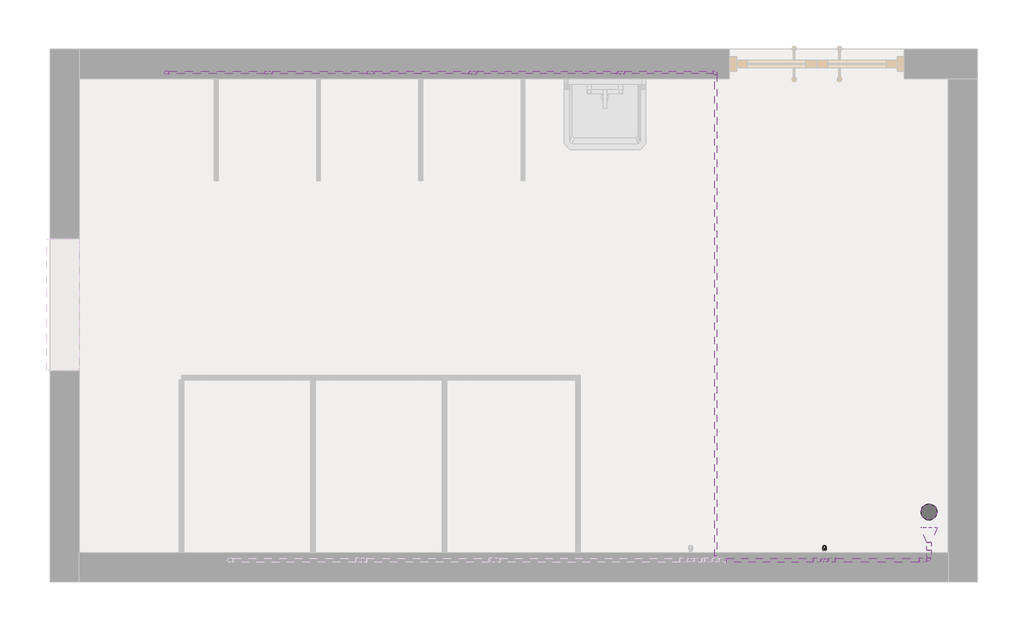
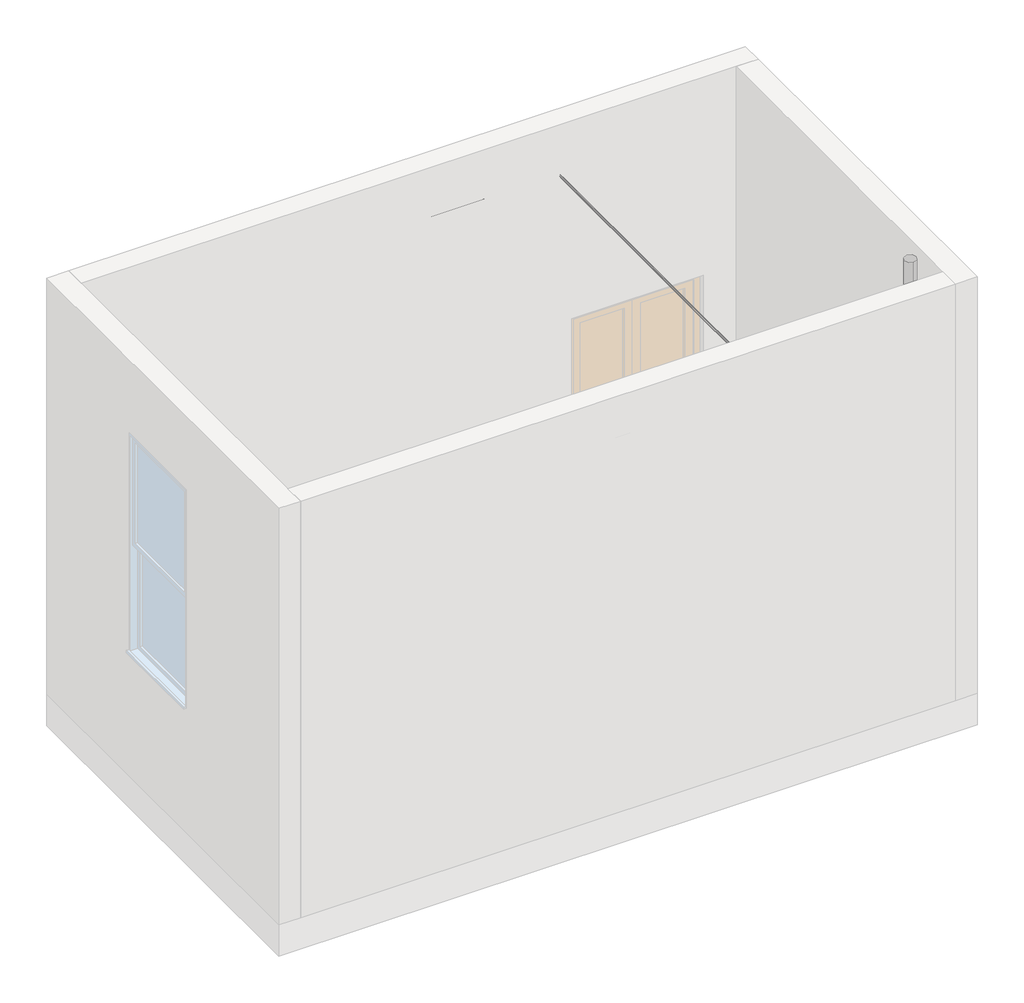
# One storey, part 2 of 2: 22 pipe segments, 21 pipe fittings.
"""IFC4 building model written with IfcOpenShell, lengths in millimetres."""

from ifc_helpers import new_model, si_unit, point, frame, frame_2d, origin, origin_with_axes, place, context, project, spatial, circle_curve, trimmed, segment, composite_curve, outline, extrude, transform, mapped, element, save
from components import pipe_fitting_1874c2ef, pipe_fitting_77111f3f, pipe_fitting_a8da37af, pipe_fitting_cd75d731, pipe_fitting_eb17f4a4, pipe_fitting_a8c3ae59

model = new_model("IFC4")

# Units and contexts
model_context = context("Model", 3, world=origin())
ifc_project = project(units=[si_unit("LENGTHUNIT", "METRE", prefix="MILLI")], contexts=[model_context])

# Site, building, storey
site = spatial("IfcSite", under=ifc_project)
building = spatial("IfcBuilding", under=site)
storey = spatial("IfcBuildingStorey", under=building, Name="标高 1", Elevation=0.0)

# Pipe fittings
placement = place(None, origin())
pipe_fitting_shape = pipe_fitting_1874c2ef(model_context)
element("IfcPipeFitting", 1, ObjectType="T 形三通 - 常规 : 标准", at=placement, inside=storey, context=model_context, shape_type="MappedRepresentation", body=[
    mapped(pipe_fitting_shape, transform((-14402.099061, -5297.8393827, 3500.0), x_axis=(1.0, 0.0, 0.0), y_axis=(0.0, 0.0, 1.0), z_axis=(0.0, -1.0, 0.0))),
])
element("IfcPipeFitting", 2, ObjectType="T 形三通 - 常规 : 标准", at=placement, inside=storey, context=model_context, shape_type="MappedRepresentation", body=[
    mapped(pipe_fitting_shape, transform((-13702.099061, -5297.8393827, 3500.0), x_axis=(1.0, 0.0, 0.0), y_axis=(0.0, 0.0, 1.0), z_axis=(0.0, -1.0, 0.0))),
])
element("IfcPipeFitting", 3, ObjectType="T 形三通 - 常规 : 标准", at=placement, inside=storey, context=model_context, shape_type="MappedRepresentation", body=[
    mapped(pipe_fitting_shape, transform((-13002.099061, -5297.8393827, 3500.0), x_axis=(1.0, 0.0, 0.0), y_axis=(0.0, 0.0, 1.0), z_axis=(0.0, -1.0, 0.0))),
])
element("IfcPipeFitting", 4, ObjectType="T 形三通 - 常规 : 标准", at=placement, inside=storey, context=model_context, shape_type="MappedRepresentation", body=[
    mapped(pipe_fitting_shape, transform((-11989.149061, -5297.8393827, 3500.0), x_axis=(1.0, 0.0, 0.0), y_axis=(0.0, 0.0, 1.0), z_axis=(0.0, -1.0, 0.0))),
])
element("IfcPipeFitting", 5, ObjectType="T 形三通 - 常规 : 标准", at=placement, inside=storey, context=model_context, shape_type="MappedRepresentation", body=[
    mapped(pipe_fitting_shape, transform((-10595.399061, -8639.5483467, 3500.0), x_axis=(-1.0, 0.0, 0.0), y_axis=(0.0, 0.0, 1.0), z_axis=(0.0, 1.0, 0.0))),
])
pipe_fitting_2_shape = pipe_fitting_77111f3f(model_context)
element("IfcPipeFitting", 6, ObjectType="弯头 - 常规 : 标准", at=placement, inside=storey, context=model_context, shape_type="MappedRepresentation", body=[
    mapped(pipe_fitting_2_shape, transform((-15102.099061, -5297.8393827, 1178.0), x_axis=(0.0, 1.0, 0.0), y_axis=(0.0, 0.0, 1.0), z_axis=(1.0, 0.0, 0.0))),
])
element("IfcPipeFitting", 7, ObjectType="弯头 - 常规 : 标准", at=placement, inside=storey, context=model_context, shape_type="MappedRepresentation", body=[
    mapped(pipe_fitting_2_shape, transform((-15102.099061, -5297.8393827, 3500.0), x_axis=(0.0, 0.0, 1.0), y_axis=(1.0, 0.0, 0.0), z_axis=(0.0, 1.0, 0.0))),
])
element("IfcPipeFitting", 8, ObjectType="弯头 - 常规 : 标准", at=placement, inside=storey, context=model_context, shape_type="MappedRepresentation", body=[
    mapped(pipe_fitting_2_shape, transform((-11339.149053, -5297.8393827, 3500.0), x_axis=(0.0, 1.0, 0.0), y_axis=(-1.0, 0.0, 0.0), z_axis=(0.0, 0.0, 1.0))),
])
element("IfcPipeFitting", 9, ObjectType="弯头 - 常规 : 标准", at=placement, inside=storey, context=model_context, shape_type="MappedRepresentation", body=[
    mapped(pipe_fitting_2_shape, transform((-14402.099061, -5297.8393827, 1178.0), x_axis=(0.0, 1.0, 0.0), y_axis=(0.0, 0.0, 1.0), z_axis=(1.0, 0.0, 0.0))),
])
element("IfcPipeFitting", 10, ObjectType="弯头 - 常规 : 标准", at=placement, inside=storey, context=model_context, shape_type="MappedRepresentation", body=[
    mapped(pipe_fitting_2_shape, transform((-13702.099061, -5297.8393827, 1178.0), x_axis=(0.0, 1.0, 0.0), y_axis=(0.0, 0.0, 1.0), z_axis=(1.0, 0.0, 0.0))),
])
element("IfcPipeFitting", 11, ObjectType="弯头 - 常规 : 标准", at=placement, inside=storey, context=model_context, shape_type="MappedRepresentation", body=[
    mapped(pipe_fitting_2_shape, transform((-13002.099061, -5297.8393827, 1178.0), x_axis=(0.0, 1.0, 0.0), y_axis=(0.0, 0.0, 1.0), z_axis=(1.0, 0.0, 0.0))),
])
element("IfcPipeFitting", 12, ObjectType="弯头 - 常规 : 标准", at=placement, inside=storey, context=model_context, shape_type="MappedRepresentation", body=[
    mapped(pipe_fitting_2_shape, transform((-11989.149061, -5297.8393827, 1025.0), x_axis=(0.0, 1.0, 0.0), y_axis=(0.0, 0.0, 1.0), z_axis=(1.0, 0.0, 0.0))),
])
element("IfcPipeFitting", 13, ObjectType="弯头 - 常规 : 标准", at=placement, inside=storey, context=model_context, shape_type="MappedRepresentation", body=[
    mapped(pipe_fitting_2_shape, transform((-10595.399061, -8639.5483467, 575.95), x_axis=(0.0, 0.0, -1.0), y_axis=(0.0, 1.0, 0.0), z_axis=(1.0, 0.0, 0.0))),
])
element("IfcPipeFitting", 14, ObjectType="弯头 - 常规 : 标准", at=placement, inside=storey, context=model_context, shape_type="MappedRepresentation", body=[
    mapped(pipe_fitting_2_shape, transform((-10595.399061, -8551.0483569, 575.95), x_axis=(0.0, 0.0, -1.0), y_axis=(0.0, -1.0, 0.0), z_axis=(-1.0, 0.0, 0.0))),
])
element("IfcPipeFitting", 15, ObjectType="弯头 - 常规 : 标准", at=placement, inside=storey, context=model_context, shape_type="MappedRepresentation", body=[
    mapped(pipe_fitting_2_shape, transform((-9879.149053, -8639.5483467, 3500.0), x_axis=(1.0, 0.0, 0.0), y_axis=(0.0, 1.0, 0.0), z_axis=(0.0, 0.0, 1.0))),
])
pipe_fitting_3_shape = pipe_fitting_a8da37af(model_context)
element("IfcPipeFitting", 16, ObjectType="T 形三通 - 常规 : 标准", at=placement, inside=storey, context=model_context, shape_type="MappedRepresentation", body=[
    mapped(pipe_fitting_3_shape, transform((-9879.149053, -8308.9982277, 3500.0), x_axis=(0.0, 0.0, 1.0), y_axis=(0.0, 1.0, 0.0), z_axis=(-1.0, 0.0, 0.0))),
])
pipe_fitting_4_shape = pipe_fitting_cd75d731(model_context)
element("IfcPipeFitting", 17, ObjectType="过渡件 - 常规 : 标准", at=placement, inside=storey, context=model_context, shape_type="MappedRepresentation", body=[
    mapped(pipe_fitting_4_shape, transform((-10570.399061, -8639.5483467, 3500.0), x_axis=(1.0, 0.0, 0.0), y_axis=(0.0, 1.0, 0.0), z_axis=(0.0, 0.0, 1.0))),
])
element("IfcPipeFitting", 18, ObjectType="过渡件 - 常规 : 标准", at=placement, inside=storey, context=model_context, shape_type="MappedRepresentation", body=[
    mapped(pipe_fitting_4_shape, transform((-9895.0580374, -8639.5483467, 3500.0), x_axis=(-1.0, 0.0, 0.0), y_axis=(0.0, -1.0, 0.0), z_axis=(0.0, 0.0, 1.0))),
])
element("IfcPipeFitting", 19, ObjectType="过渡件 - 常规 : 标准", at=placement, inside=storey, context=model_context, shape_type="MappedRepresentation", body=[
    mapped(pipe_fitting_4_shape, transform((-9879.149053, -8623.6393623, 3500.0), x_axis=(0.0, 1.0, 0.0), y_axis=(-1.0, 0.0, 0.0), z_axis=(0.0, 0.0, 1.0))),
])
pipe_fitting_5_shape = pipe_fitting_eb17f4a4(model_context)
element("IfcPipeFitting", 20, ObjectType="过渡件 - 常规 : 标准", at=placement, inside=storey, context=model_context, shape_type="MappedRepresentation", body=[
    mapped(pipe_fitting_5_shape, transform((-10620.399061, -8639.5483467, 3500.0), x_axis=(-1.0, 0.0, 0.0), y_axis=(0.0, -1.0, 0.0), z_axis=(0.0, 0.0, 1.0))),
])
pipe_fitting_6_shape = pipe_fitting_a8c3ae59(model_context)
element("IfcPipeFitting", 21, ObjectType="过渡件 - 常规 : 标准", at=placement, inside=storey, context=model_context, shape_type="MappedRepresentation", body=[
    mapped(pipe_fitting_6_shape, transform((-9879.149053, -8413.9982277, 3500.0), x_axis=(0.0, -1.0, 0.0), y_axis=(1.0, 0.0, 0.0), z_axis=(0.0, 0.0, 1.0))),
])

# Pipe segments
element("IfcPipeSegment", 22, ObjectType="标准", at=placement, inside=storey, context=model_context, shape_type="SweptSolid", body=[
    extrude(outline(composite_curve([segment(trimmed(circle_curve(frame_2d((1178.0, -15102.099061)), 7.5), [point((1178.0, -15094.599061))], [point((1185.5, -15102.099061))], False, "CARTESIAN"), True, "CONTINUOUS"), segment(trimmed(circle_curve(frame_2d((1178.0, -15102.099061)), 7.5), [point((1185.5, -15102.099061))], [point((1178.0, -15109.599061))], False, "CARTESIAN"), True, "CONTINUOUS"), segment(trimmed(circle_curve(frame_2d((1178.0, -15102.099061)), 7.5), [point((1178.0, -15109.599061))], [point((1170.5, -15102.099061))], False, "CARTESIAN"), True, "CONTINUOUS"), segment(trimmed(circle_curve(frame_2d((1178.0, -15102.099061)), 7.5), [point((1170.5, -15102.099061))], [point((1178.0, -15094.599061))], False, "CARTESIAN"), True, "CONTINUOUS")], self_intersect=False)), frame((0.0, -5339.1483569, 0.0), z_axis=(0.0, 1.0, 0.0), x_axis=(0.0, 0.0, 1.0)), (0.0, 0.0, 1.0), 25.3999898),
])
element("IfcPipeSegment", 23, ObjectType="标准", at=placement, inside=storey, context=model_context, shape_type="SweptSolid", body=[
    extrude(outline(composite_curve([segment(trimmed(circle_curve(frame_2d((-15102.099061, -5297.8393827)), 7.5), [point((-15109.599061, -5297.8393827))], [point((-15102.099061, -5290.3393827))], False, "CARTESIAN"), True, "CONTINUOUS"), segment(trimmed(circle_curve(frame_2d((-15102.099061, -5297.8393827)), 7.5), [point((-15102.099061, -5290.3393827))], [point((-15094.599061, -5297.8393827))], False, "CARTESIAN"), True, "CONTINUOUS"), segment(trimmed(circle_curve(frame_2d((-15102.099061, -5297.8393827)), 7.5), [point((-15094.599061, -5297.8393827))], [point((-15102.099061, -5305.3393827))], False, "CARTESIAN"), True, "CONTINUOUS"), segment(trimmed(circle_curve(frame_2d((-15102.099061, -5297.8393827)), 7.5), [point((-15102.099061, -5305.3393827))], [point((-15109.599061, -5297.8393827))], False, "CARTESIAN"), True, "CONTINUOUS")], self_intersect=False)), frame((0.0, 0.0, 1193.9089844), z_axis=(0.0, 0.0, 1.0), x_axis=(1.0, 0.0, 0.0)), (0.0, 0.0, 1.0), 2290.1820313),
])
element("IfcPipeSegment", 24, ObjectType="标准", at=placement, inside=storey, context=model_context, shape_type="SweptSolid", body=[
    extrude(outline(composite_curve([segment(trimmed(circle_curve(frame_2d((-5297.8393827, 3500.0)), 7.5), [point((-5305.3393827, 3500.0))], [point((-5297.8393827, 3507.5))], False, "CARTESIAN"), True, "CONTINUOUS"), segment(trimmed(circle_curve(frame_2d((-5297.8393827, 3500.0)), 7.5), [point((-5297.8393827, 3507.5))], [point((-5290.3393827, 3500.0))], False, "CARTESIAN"), True, "CONTINUOUS"), segment(trimmed(circle_curve(frame_2d((-5297.8393827, 3500.0)), 7.5), [point((-5290.3393827, 3500.0))], [point((-5297.8393827, 3492.5))], False, "CARTESIAN"), True, "CONTINUOUS"), segment(trimmed(circle_curve(frame_2d((-5297.8393827, 3500.0)), 7.5), [point((-5297.8393827, 3492.5))], [point((-5305.3393827, 3500.0))], False, "CARTESIAN"), True, "CONTINUOUS")], self_intersect=False)), frame((-11964.149061, 0.0, 0.0), z_axis=(1.0, 0.0, 0.0), x_axis=(0.0, 1.0, 0.0)), (0.0, 0.0, 1.0), 609.0910236),
])
element("IfcPipeSegment", 25, ObjectType="标准", at=placement, inside=storey, context=model_context, shape_type="SweptSolid", body=[
    extrude(outline(composite_curve([segment(trimmed(circle_curve(frame_2d((3500.0, -11339.149053)), 7.5), [point((3500.0, -11346.649053))], [point((3492.5, -11339.149053))], False, "CARTESIAN"), True, "CONTINUOUS"), segment(trimmed(circle_curve(frame_2d((3500.0, -11339.149053)), 7.5), [point((3492.5, -11339.149053))], [point((3500.0, -11331.649053))], False, "CARTESIAN"), True, "CONTINUOUS"), segment(trimmed(circle_curve(frame_2d((3500.0, -11339.149053)), 7.5), [point((3500.0, -11331.649053))], [point((3507.5, -11339.149053))], False, "CARTESIAN"), True, "CONTINUOUS"), segment(trimmed(circle_curve(frame_2d((3500.0, -11339.149053)), 7.5), [point((3507.5, -11339.149053))], [point((3500.0, -11346.649053))], False, "CARTESIAN"), True, "CONTINUOUS")], self_intersect=False)), frame((0.0, -8614.5483467, 0.0), z_axis=(0.0, 1.0, 0.0), x_axis=(0.0, 0.0, 1.0)), (0.0, 0.0, 1.0), 3300.7999797),
])
element("IfcPipeSegment", 26, ObjectType="标准", at=placement, inside=storey, context=model_context, shape_type="SweptSolid", body=[
    extrude(outline(composite_curve([segment(trimmed(circle_curve(frame_2d((1178.0, -14402.099061)), 7.5), [point((1178.0, -14394.599061))], [point((1185.5, -14402.099061))], False, "CARTESIAN"), True, "CONTINUOUS"), segment(trimmed(circle_curve(frame_2d((1178.0, -14402.099061)), 7.5), [point((1185.5, -14402.099061))], [point((1178.0, -14409.599061))], False, "CARTESIAN"), True, "CONTINUOUS"), segment(trimmed(circle_curve(frame_2d((1178.0, -14402.099061)), 7.5), [point((1178.0, -14409.599061))], [point((1170.5, -14402.099061))], False, "CARTESIAN"), True, "CONTINUOUS"), segment(trimmed(circle_curve(frame_2d((1178.0, -14402.099061)), 7.5), [point((1170.5, -14402.099061))], [point((1178.0, -14394.599061))], False, "CARTESIAN"), True, "CONTINUOUS")], self_intersect=False)), frame((0.0, -5339.1483569, 0.0), z_axis=(0.0, 1.0, 0.0), x_axis=(0.0, 0.0, 1.0)), (0.0, 0.0, 1.0), 25.3999898),
])
element("IfcPipeSegment", 27, ObjectType="标准", at=placement, inside=storey, context=model_context, shape_type="SweptSolid", body=[
    extrude(outline(composite_curve([segment(trimmed(circle_curve(frame_2d((-14402.099061, -5297.8393827)), 7.5), [point((-14394.599061, -5297.8393827))], [point((-14402.099061, -5305.3393827))], False, "CARTESIAN"), True, "CONTINUOUS"), segment(trimmed(circle_curve(frame_2d((-14402.099061, -5297.8393827)), 7.5), [point((-14402.099061, -5305.3393827))], [point((-14409.599061, -5297.8393827))], False, "CARTESIAN"), True, "CONTINUOUS"), segment(trimmed(circle_curve(frame_2d((-14402.099061, -5297.8393827)), 7.5), [point((-14409.599061, -5297.8393827))], [point((-14402.099061, -5290.3393827))], False, "CARTESIAN"), True, "CONTINUOUS"), segment(trimmed(circle_curve(frame_2d((-14402.099061, -5297.8393827)), 7.5), [point((-14402.099061, -5290.3393827))], [point((-14394.599061, -5297.8393827))], False, "CARTESIAN"), True, "CONTINUOUS")], self_intersect=False)), frame((0.0, 0.0, 1193.9089844), z_axis=(0.0, 0.0, 1.0), x_axis=(1.0, 0.0, 0.0)), (0.0, 0.0, 1.0), 2281.0910156),
])
element("IfcPipeSegment", 28, ObjectType="标准", at=placement, inside=storey, context=model_context, shape_type="SweptSolid", body=[
    extrude(outline(composite_curve([segment(trimmed(circle_curve(frame_2d((1178.0, -13702.099061)), 7.5), [point((1178.0, -13694.599061))], [point((1185.5, -13702.099061))], False, "CARTESIAN"), True, "CONTINUOUS"), segment(trimmed(circle_curve(frame_2d((1178.0, -13702.099061)), 7.5), [point((1185.5, -13702.099061))], [point((1178.0, -13709.599061))], False, "CARTESIAN"), True, "CONTINUOUS"), segment(trimmed(circle_curve(frame_2d((1178.0, -13702.099061)), 7.5), [point((1178.0, -13709.599061))], [point((1170.5, -13702.099061))], False, "CARTESIAN"), True, "CONTINUOUS"), segment(trimmed(circle_curve(frame_2d((1178.0, -13702.099061)), 7.5), [point((1170.5, -13702.099061))], [point((1178.0, -13694.599061))], False, "CARTESIAN"), True, "CONTINUOUS")], self_intersect=False)), frame((0.0, -5339.1483569, 0.0), z_axis=(0.0, 1.0, 0.0), x_axis=(0.0, 0.0, 1.0)), (0.0, 0.0, 1.0), 25.3999898),
])
element("IfcPipeSegment", 29, ObjectType="标准", at=placement, inside=storey, context=model_context, shape_type="SweptSolid", body=[
    extrude(outline(composite_curve([segment(trimmed(circle_curve(frame_2d((-13702.099061, -5297.8393827)), 7.5), [point((-13694.599061, -5297.8393827))], [point((-13702.099061, -5305.3393827))], False, "CARTESIAN"), True, "CONTINUOUS"), segment(trimmed(circle_curve(frame_2d((-13702.099061, -5297.8393827)), 7.5), [point((-13702.099061, -5305.3393827))], [point((-13709.599061, -5297.8393827))], False, "CARTESIAN"), True, "CONTINUOUS"), segment(trimmed(circle_curve(frame_2d((-13702.099061, -5297.8393827)), 7.5), [point((-13709.599061, -5297.8393827))], [point((-13702.099061, -5290.3393827))], False, "CARTESIAN"), True, "CONTINUOUS"), segment(trimmed(circle_curve(frame_2d((-13702.099061, -5297.8393827)), 7.5), [point((-13702.099061, -5290.3393827))], [point((-13694.599061, -5297.8393827))], False, "CARTESIAN"), True, "CONTINUOUS")], self_intersect=False)), frame((0.0, 0.0, 1193.9089844), z_axis=(0.0, 0.0, 1.0), x_axis=(1.0, 0.0, 0.0)), (0.0, 0.0, 1.0), 2281.0910156),
])
element("IfcPipeSegment", 30, ObjectType="标准", at=placement, inside=storey, context=model_context, shape_type="SweptSolid", body=[
    extrude(outline(composite_curve([segment(trimmed(circle_curve(frame_2d((1178.0, -13002.099061)), 7.5), [point((1178.0, -12994.599061))], [point((1185.5, -13002.099061))], False, "CARTESIAN"), True, "CONTINUOUS"), segment(trimmed(circle_curve(frame_2d((1178.0, -13002.099061)), 7.5), [point((1185.5, -13002.099061))], [point((1178.0, -13009.599061))], False, "CARTESIAN"), True, "CONTINUOUS"), segment(trimmed(circle_curve(frame_2d((1178.0, -13002.099061)), 7.5), [point((1178.0, -13009.599061))], [point((1170.5, -13002.099061))], False, "CARTESIAN"), True, "CONTINUOUS"), segment(trimmed(circle_curve(frame_2d((1178.0, -13002.099061)), 7.5), [point((1170.5, -13002.099061))], [point((1178.0, -12994.599061))], False, "CARTESIAN"), True, "CONTINUOUS")], self_intersect=False)), frame((0.0, -5339.1483569, 0.0), z_axis=(0.0, 1.0, 0.0), x_axis=(0.0, 0.0, 1.0)), (0.0, 0.0, 1.0), 25.3999898),
])
element("IfcPipeSegment", 31, ObjectType="标准", at=placement, inside=storey, context=model_context, shape_type="SweptSolid", body=[
    extrude(outline(composite_curve([segment(trimmed(circle_curve(frame_2d((-13002.099061, -5297.8393827)), 7.5), [point((-12994.599061, -5297.8393827))], [point((-13002.099061, -5305.3393827))], False, "CARTESIAN"), True, "CONTINUOUS"), segment(trimmed(circle_curve(frame_2d((-13002.099061, -5297.8393827)), 7.5), [point((-13002.099061, -5305.3393827))], [point((-13009.599061, -5297.8393827))], False, "CARTESIAN"), True, "CONTINUOUS"), segment(trimmed(circle_curve(frame_2d((-13002.099061, -5297.8393827)), 7.5), [point((-13009.599061, -5297.8393827))], [point((-13002.099061, -5290.3393827))], False, "CARTESIAN"), True, "CONTINUOUS"), segment(trimmed(circle_curve(frame_2d((-13002.099061, -5297.8393827)), 7.5), [point((-13002.099061, -5290.3393827))], [point((-12994.599061, -5297.8393827))], False, "CARTESIAN"), True, "CONTINUOUS")], self_intersect=False)), frame((0.0, 0.0, 1193.9089844), z_axis=(0.0, 0.0, 1.0), x_axis=(1.0, 0.0, 0.0)), (0.0, 0.0, 1.0), 2281.0910156),
])
element("IfcPipeSegment", 32, ObjectType="标准", at=placement, inside=storey, context=model_context, shape_type="SweptSolid", body=[
    extrude(outline(composite_curve([segment(trimmed(circle_curve(frame_2d((1025.0, -11989.149061)), 7.5), [point((1025.0, -11981.649061))], [point((1032.5, -11989.149061))], False, "CARTESIAN"), True, "CONTINUOUS"), segment(trimmed(circle_curve(frame_2d((1025.0, -11989.149061)), 7.5), [point((1032.5, -11989.149061))], [point((1025.0, -11996.649061))], False, "CARTESIAN"), True, "CONTINUOUS"), segment(trimmed(circle_curve(frame_2d((1025.0, -11989.149061)), 7.5), [point((1025.0, -11996.649061))], [point((1017.5, -11989.149061))], False, "CARTESIAN"), True, "CONTINUOUS"), segment(trimmed(circle_curve(frame_2d((1025.0, -11989.149061)), 7.5), [point((1017.5, -11989.149061))], [point((1025.0, -11981.649061))], False, "CARTESIAN"), True, "CONTINUOUS")], self_intersect=False)), frame((0.0, -5339.1483569, 0.0), z_axis=(0.0, 1.0, 0.0), x_axis=(0.0, 0.0, 1.0)), (0.0, 0.0, 1.0), 25.3999898),
])
element("IfcPipeSegment", 33, ObjectType="标准", at=placement, inside=storey, context=model_context, shape_type="SweptSolid", body=[
    extrude(outline(composite_curve([segment(trimmed(circle_curve(frame_2d((-11989.149061, -5297.8393827)), 7.5), [point((-11981.649061, -5297.8393827))], [point((-11989.149061, -5305.3393827))], False, "CARTESIAN"), True, "CONTINUOUS"), segment(trimmed(circle_curve(frame_2d((-11989.149061, -5297.8393827)), 7.5), [point((-11989.149061, -5305.3393827))], [point((-11996.649061, -5297.8393827))], False, "CARTESIAN"), True, "CONTINUOUS"), segment(trimmed(circle_curve(frame_2d((-11989.149061, -5297.8393827)), 7.5), [point((-11996.649061, -5297.8393827))], [point((-11989.149061, -5290.3393827))], False, "CARTESIAN"), True, "CONTINUOUS"), segment(trimmed(circle_curve(frame_2d((-11989.149061, -5297.8393827)), 7.5), [point((-11989.149061, -5290.3393827))], [point((-11981.649061, -5297.8393827))], False, "CARTESIAN"), True, "CONTINUOUS")], self_intersect=False)), frame((0.0, 0.0, 1040.9089844), z_axis=(0.0, 0.0, 1.0), x_axis=(1.0, 0.0, 0.0)), (0.0, 0.0, 1.0), 2434.0910156),
])
element("IfcPipeSegment", 34, ObjectType="标准", at=placement, inside=storey, context=model_context, shape_type="SweptSolid", body=[
    extrude(outline(composite_curve([segment(trimmed(circle_curve(frame_2d((-5297.8393827, 3500.0)), 7.5), [point((-5305.3393827, 3500.0))], [point((-5297.8393827, 3507.5))], False, "CARTESIAN"), True, "CONTINUOUS"), segment(trimmed(circle_curve(frame_2d((-5297.8393827, 3500.0)), 7.5), [point((-5297.8393827, 3507.5))], [point((-5290.3393827, 3500.0))], False, "CARTESIAN"), True, "CONTINUOUS"), segment(trimmed(circle_curve(frame_2d((-5297.8393827, 3500.0)), 7.5), [point((-5290.3393827, 3500.0))], [point((-5297.8393827, 3492.5))], False, "CARTESIAN"), True, "CONTINUOUS"), segment(trimmed(circle_curve(frame_2d((-5297.8393827, 3500.0)), 7.5), [point((-5297.8393827, 3492.5))], [point((-5305.3393827, 3500.0))], False, "CARTESIAN"), True, "CONTINUOUS")], self_intersect=False)), frame((-15086.1900767, 0.0, 0.0), z_axis=(1.0, 0.0, 0.0), x_axis=(0.0, 1.0, 0.0)), (0.0, 0.0, 1.0), 659.0910156),
])
element("IfcPipeSegment", 35, ObjectType="标准", at=placement, inside=storey, context=model_context, shape_type="SweptSolid", body=[
    extrude(outline(composite_curve([segment(trimmed(circle_curve(frame_2d((-5297.8393827, 3500.0)), 7.5), [point((-5305.3393827, 3500.0))], [point((-5297.8393827, 3507.5))], False, "CARTESIAN"), True, "CONTINUOUS"), segment(trimmed(circle_curve(frame_2d((-5297.8393827, 3500.0)), 7.5), [point((-5297.8393827, 3507.5))], [point((-5290.3393827, 3500.0))], False, "CARTESIAN"), True, "CONTINUOUS"), segment(trimmed(circle_curve(frame_2d((-5297.8393827, 3500.0)), 7.5), [point((-5290.3393827, 3500.0))], [point((-5297.8393827, 3492.5))], False, "CARTESIAN"), True, "CONTINUOUS"), segment(trimmed(circle_curve(frame_2d((-5297.8393827, 3500.0)), 7.5), [point((-5297.8393827, 3492.5))], [point((-5305.3393827, 3500.0))], False, "CARTESIAN"), True, "CONTINUOUS")], self_intersect=False)), frame((-14377.099061, 0.0, 0.0), z_axis=(1.0, 0.0, 0.0), x_axis=(0.0, 1.0, 0.0)), (0.0, 0.0, 1.0), 650.0),
])
element("IfcPipeSegment", 36, ObjectType="标准", at=placement, inside=storey, context=model_context, shape_type="SweptSolid", body=[
    extrude(outline(composite_curve([segment(trimmed(circle_curve(frame_2d((-5297.8393827, 3500.0)), 7.5), [point((-5305.3393827, 3500.0))], [point((-5297.8393827, 3507.5))], False, "CARTESIAN"), True, "CONTINUOUS"), segment(trimmed(circle_curve(frame_2d((-5297.8393827, 3500.0)), 7.5), [point((-5297.8393827, 3507.5))], [point((-5290.3393827, 3500.0))], False, "CARTESIAN"), True, "CONTINUOUS"), segment(trimmed(circle_curve(frame_2d((-5297.8393827, 3500.0)), 7.5), [point((-5290.3393827, 3500.0))], [point((-5297.8393827, 3492.5))], False, "CARTESIAN"), True, "CONTINUOUS"), segment(trimmed(circle_curve(frame_2d((-5297.8393827, 3500.0)), 7.5), [point((-5297.8393827, 3492.5))], [point((-5305.3393827, 3500.0))], False, "CARTESIAN"), True, "CONTINUOUS")], self_intersect=False)), frame((-13677.099061, 0.0, 0.0), z_axis=(1.0, 0.0, 0.0), x_axis=(0.0, 1.0, 0.0)), (0.0, 0.0, 1.0), 650.0),
])
element("IfcPipeSegment", 37, ObjectType="标准", at=placement, inside=storey, context=model_context, shape_type="SweptSolid", body=[
    extrude(outline(composite_curve([segment(trimmed(circle_curve(frame_2d((-5297.8393827, 3500.0)), 7.5), [point((-5305.3393827, 3500.0))], [point((-5297.8393827, 3507.5))], False, "CARTESIAN"), True, "CONTINUOUS"), segment(trimmed(circle_curve(frame_2d((-5297.8393827, 3500.0)), 7.5), [point((-5297.8393827, 3507.5))], [point((-5290.3393827, 3500.0))], False, "CARTESIAN"), True, "CONTINUOUS"), segment(trimmed(circle_curve(frame_2d((-5297.8393827, 3500.0)), 7.5), [point((-5290.3393827, 3500.0))], [point((-5297.8393827, 3492.5))], False, "CARTESIAN"), True, "CONTINUOUS"), segment(trimmed(circle_curve(frame_2d((-5297.8393827, 3500.0)), 7.5), [point((-5297.8393827, 3492.5))], [point((-5305.3393827, 3500.0))], False, "CARTESIAN"), True, "CONTINUOUS")], self_intersect=False)), frame((-12977.099061, 0.0, 0.0), z_axis=(1.0, 0.0, 0.0), x_axis=(0.0, 1.0, 0.0)), (0.0, 0.0, 1.0), 962.95),
])
element("IfcPipeSegment", 38, ObjectType="标准", at=placement, inside=storey, context=model_context, shape_type="SweptSolid", body=[
    extrude(outline(composite_curve([segment(trimmed(circle_curve(frame_2d((-8639.5483467, 3500.0)), 14.0), [point((-8653.5483467, 3500.0))], [point((-8639.5483467, 3514.0))], False, "CARTESIAN"), True, "CONTINUOUS"), segment(trimmed(circle_curve(frame_2d((-8639.5483467, 3500.0)), 14.0), [point((-8639.5483467, 3514.0))], [point((-8625.5483467, 3500.0))], False, "CARTESIAN"), True, "CONTINUOUS"), segment(trimmed(circle_curve(frame_2d((-8639.5483467, 3500.0)), 14.0), [point((-8625.5483467, 3500.0))], [point((-8639.5483467, 3486.0))], False, "CARTESIAN"), True, "CONTINUOUS"), segment(trimmed(circle_curve(frame_2d((-8639.5483467, 3500.0)), 14.0), [point((-8639.5483467, 3486.0))], [point((-8653.5483467, 3500.0))], False, "CARTESIAN"), True, "CONTINUOUS")], self_intersect=False)), frame((-10519.399061, 0.0, 0.0), z_axis=(1.0, 0.0, 0.0), x_axis=(0.0, 1.0, 0.0)), (0.0, 0.0, 1.0), 573.3410236),
])
element("IfcPipeSegment", 39, ObjectType="标准", at=placement, inside=storey, context=model_context, shape_type="SweptSolid", body=[
    extrude(outline(composite_curve([segment(trimmed(circle_curve(frame_2d((-10595.399061, -8639.5483467)), 7.5), [point((-10587.899061, -8639.5483467))], [point((-10595.399061, -8647.0483467))], False, "CARTESIAN"), True, "CONTINUOUS"), segment(trimmed(circle_curve(frame_2d((-10595.399061, -8639.5483467)), 7.5), [point((-10595.399061, -8647.0483467))], [point((-10602.899061, -8639.5483467))], False, "CARTESIAN"), True, "CONTINUOUS"), segment(trimmed(circle_curve(frame_2d((-10595.399061, -8639.5483467)), 7.5), [point((-10602.899061, -8639.5483467))], [point((-10595.399061, -8632.0483467))], False, "CARTESIAN"), True, "CONTINUOUS"), segment(trimmed(circle_curve(frame_2d((-10595.399061, -8639.5483467)), 7.5), [point((-10595.399061, -8632.0483467))], [point((-10587.899061, -8639.5483467))], False, "CARTESIAN"), True, "CONTINUOUS")], self_intersect=False)), frame((0.0, 0.0, 591.8589844), z_axis=(0.0, 0.0, 1.0), x_axis=(1.0, 0.0, 0.0)), (0.0, 0.0, 1.0), 2883.1410156),
])
element("IfcPipeSegment", 40, ObjectType="标准", at=placement, inside=storey, context=model_context, shape_type="SweptSolid", body=[
    extrude(outline(composite_curve([segment(trimmed(circle_curve(frame_2d((-8639.5483467, 3500.0)), 14.0), [point((-8653.5483467, 3500.0))], [point((-8639.5483467, 3514.0))], False, "CARTESIAN"), True, "CONTINUOUS"), segment(trimmed(circle_curve(frame_2d((-8639.5483467, 3500.0)), 14.0), [point((-8639.5483467, 3514.0))], [point((-8625.5483467, 3500.0))], False, "CARTESIAN"), True, "CONTINUOUS"), segment(trimmed(circle_curve(frame_2d((-8639.5483467, 3500.0)), 14.0), [point((-8625.5483467, 3500.0))], [point((-8639.5483467, 3486.0))], False, "CARTESIAN"), True, "CONTINUOUS"), segment(trimmed(circle_curve(frame_2d((-8639.5483467, 3500.0)), 14.0), [point((-8639.5483467, 3486.0))], [point((-8653.5483467, 3500.0))], False, "CARTESIAN"), True, "CONTINUOUS")], self_intersect=False)), frame((-11263.149053, 0.0, 0.0), z_axis=(1.0, 0.0, 0.0), x_axis=(0.0, 1.0, 0.0)), (0.0, 0.0, 1.0), 591.749992),
])
element("IfcPipeSegment", 41, ObjectType="标准", at=placement, inside=storey, context=model_context, shape_type="SweptSolid", body=[
    extrude(outline(composite_curve([segment(trimmed(circle_curve(frame_2d((-9879.149053, -8308.9982277)), 54.0), [point((-9933.149053, -8308.9982277))], [point((-9879.149053, -8254.9982277))], False, "CARTESIAN"), True, "CONTINUOUS"), segment(trimmed(circle_curve(frame_2d((-9879.149053, -8308.9982277)), 54.0), [point((-9879.149053, -8254.9982277))], [point((-9825.149053, -8308.9982277))], False, "CARTESIAN"), True, "CONTINUOUS"), segment(trimmed(circle_curve(frame_2d((-9879.149053, -8308.9982277)), 54.0), [point((-9825.149053, -8308.9982277))], [point((-9879.149053, -8362.9982277))], False, "CARTESIAN"), True, "CONTINUOUS"), segment(trimmed(circle_curve(frame_2d((-9879.149053, -8308.9982277)), 54.0), [point((-9879.149053, -8362.9982277))], [point((-9933.149053, -8308.9982277))], False, "CARTESIAN"), True, "CONTINUOUS")], self_intersect=False)), frame((0.0, 0.0, 3605.0), z_axis=(0.0, 0.0, 1.0), x_axis=(1.0, 0.0, 0.0)), (0.0, 0.0, 1.0), 395.0),
])
element("IfcPipeSegment", 42, ObjectType="标准", at=placement, inside=storey, context=model_context, shape_type="SweptSolid", body=[
    extrude(outline(composite_curve([segment(trimmed(circle_curve(frame_2d((3500.0, -9879.149053)), 14.0), [point((3500.0, -9893.149053))], [point((3486.0, -9879.149053))], False, "CARTESIAN"), True, "CONTINUOUS"), segment(trimmed(circle_curve(frame_2d((3500.0, -9879.149053)), 14.0), [point((3486.0, -9879.149053))], [point((3500.0, -9865.149053))], False, "CARTESIAN"), True, "CONTINUOUS"), segment(trimmed(circle_curve(frame_2d((3500.0, -9879.149053)), 14.0), [point((3500.0, -9865.149053))], [point((3514.0, -9879.149053))], False, "CARTESIAN"), True, "CONTINUOUS"), segment(trimmed(circle_curve(frame_2d((3500.0, -9879.149053)), 14.0), [point((3514.0, -9879.149053))], [point((3500.0, -9893.149053))], False, "CARTESIAN"), True, "CONTINUOUS")], self_intersect=False)), frame((0.0, -8572.6393623, 0.0), z_axis=(0.0, 1.0, 0.0), x_axis=(0.0, 0.0, 1.0)), (0.0, 0.0, 1.0), 56.6411347),
])
element("IfcPipeSegment", 43, ObjectType="标准", at=placement, inside=storey, context=model_context, shape_type="SweptSolid", body=[
    extrude(outline(composite_curve([segment(trimmed(circle_curve(frame_2d((-9879.149053, -8308.9982277)), 54.0), [point((-9933.149053, -8308.9982277))], [point((-9879.149053, -8254.9982277))], False, "CARTESIAN"), True, "CONTINUOUS"), segment(trimmed(circle_curve(frame_2d((-9879.149053, -8308.9982277)), 54.0), [point((-9879.149053, -8254.9982277))], [point((-9825.149053, -8308.9982277))], False, "CARTESIAN"), True, "CONTINUOUS"), segment(trimmed(circle_curve(frame_2d((-9879.149053, -8308.9982277)), 54.0), [point((-9825.149053, -8308.9982277))], [point((-9879.149053, -8362.9982277))], False, "CARTESIAN"), True, "CONTINUOUS"), segment(trimmed(circle_curve(frame_2d((-9879.149053, -8308.9982277)), 54.0), [point((-9879.149053, -8362.9982277))], [point((-9933.149053, -8308.9982277))], False, "CARTESIAN"), True, "CONTINUOUS")], self_intersect=False)), origin_with_axes(), (0.0, 0.0, 1.0), 3395.0),
])

save(model, "model.ifc")
